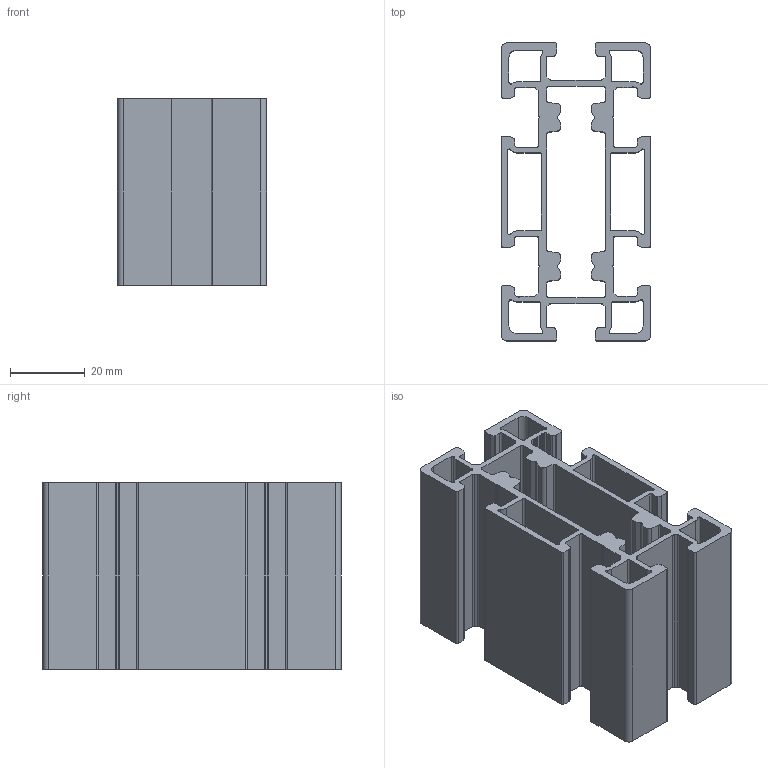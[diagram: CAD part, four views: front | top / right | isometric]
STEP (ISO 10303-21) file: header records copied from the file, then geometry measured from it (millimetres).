
FILE_DESCRIPTION(('STEP AP214'),'1');
FILE_NAME('F48L.stp','2026-02-02T06:50:35',(' '),(' '),'Spatial InterOp 3D',' ',' ');
FILE_SCHEMA(('AUTOMOTIVE_DESIGN { 1 0 10303 214 1 1 1 1 }'));
Length unit declared in the file: millimetre
Products named in the file (1): F48L
Bounding box: 40 x 80 x 50 mm (x, y, z)
Volume: 45278.5 mm3; surface area: 43740.5 mm2
Topology: 1 solids, 1 shells, 330 faces, 984 edges, 656 vertices
Faces by surface type: cylinder 176, plane 154
Entity records: 13884 total; most frequent: DIRECTION 1998, CARTESIAN_POINT 1971, ORIENTED_EDGE 1968, EDGE_CURVE 984, AXIS2_PLACEMENT_3D 683, VERTEX_POINT 656, LINE 632, VECTOR 632
